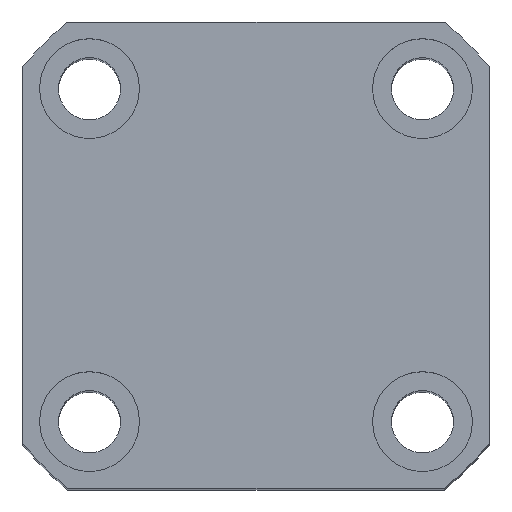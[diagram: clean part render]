
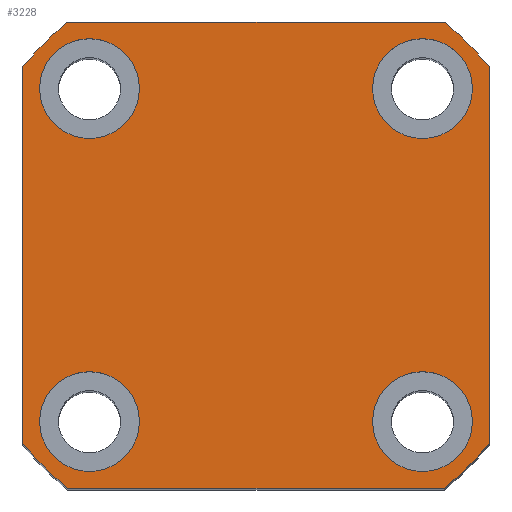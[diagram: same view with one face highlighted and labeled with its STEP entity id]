
A CAD part, top view. The second image highlights one B-rep face of the part: STEP entity #3228.
In plain terms, the highlighted planar face has unit normal (0, 0, 1).
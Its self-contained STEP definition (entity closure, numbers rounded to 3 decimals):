
#3228=ADVANCED_FACE('',(#3943,#3944,#3945,#3946,#3947),#3636,.T.);
#3636=PLANE('',#10395);
#3943=FACE_BOUND('',#4151,.T.);
#3944=FACE_BOUND('',#4152,.T.);
#3945=FACE_BOUND('',#4153,.T.);
#3946=FACE_BOUND('',#4154,.T.);
#3947=FACE_BOUND('',#4155,.T.);
#4151=EDGE_LOOP('',(#6303));
#4152=EDGE_LOOP('',(#6304));
#4153=EDGE_LOOP('',(#6305));
#4154=EDGE_LOOP('',(#6306));
#4155=EDGE_LOOP('',(#6307,#6308,#6309,#6310,#6311,#6312,#6313,#6314));
#4649=LINE('',#12433,#5376);
#4654=LINE('',#13075,#5381);
#4658=LINE('',#13084,#5385);
#4662=LINE('',#13093,#5389);
#5376=VECTOR('',#10760,1.);
#5381=VECTOR('',#10887,1.);
#5385=VECTOR('',#10893,1.);
#5389=VECTOR('',#10899,1.);
#6303=ORIENTED_EDGE('',*,*,#9172,.F.);
#6304=ORIENTED_EDGE('',*,*,#9174,.F.);
#6305=ORIENTED_EDGE('',*,*,#9176,.F.);
#6306=ORIENTED_EDGE('',*,*,#9178,.F.);
#6307=ORIENTED_EDGE('',*,*,#9146,.T.);
#6308=ORIENTED_EDGE('',*,*,#9242,.T.);
#6309=ORIENTED_EDGE('',*,*,#9231,.T.);
#6310=ORIENTED_EDGE('',*,*,#9243,.T.);
#6311=ORIENTED_EDGE('',*,*,#9235,.T.);
#6312=ORIENTED_EDGE('',*,*,#9244,.T.);
#6313=ORIENTED_EDGE('',*,*,#9239,.T.);
#6314=ORIENTED_EDGE('',*,*,#9245,.T.);
#8377=VERTEX_POINT('',#12431);
#8379=VERTEX_POINT('',#12434);
#8403=VERTEX_POINT('',#12617);
#8405=VERTEX_POINT('',#12622);
#8407=VERTEX_POINT('',#12627);
#8409=VERTEX_POINT('',#12632);
#8461=VERTEX_POINT('',#13073);
#8463=VERTEX_POINT('',#13076);
#8465=VERTEX_POINT('',#13082);
#8467=VERTEX_POINT('',#13085);
#8469=VERTEX_POINT('',#13091);
#8471=VERTEX_POINT('',#13094);
#9146=EDGE_CURVE('',#8379,#8377,#4649,.T.);
#9172=EDGE_CURVE('',#8403,#8403,#10250,.T.);
#9174=EDGE_CURVE('',#8405,#8405,#10252,.T.);
#9176=EDGE_CURVE('',#8407,#8407,#10254,.T.);
#9178=EDGE_CURVE('',#8409,#8409,#10256,.T.);
#9231=EDGE_CURVE('',#8463,#8461,#4654,.T.);
#9235=EDGE_CURVE('',#8467,#8465,#4658,.T.);
#9239=EDGE_CURVE('',#8471,#8469,#4662,.T.);
#9242=EDGE_CURVE('',#8377,#8463,#10268,.T.);
#9243=EDGE_CURVE('',#8461,#8467,#10269,.T.);
#9244=EDGE_CURVE('',#8465,#8471,#10270,.T.);
#9245=EDGE_CURVE('',#8469,#8379,#10271,.T.);
#10250=CIRCLE('',#10361,4.5);
#10252=CIRCLE('',#10364,4.5);
#10254=CIRCLE('',#10367,4.5);
#10256=CIRCLE('',#10370,4.5);
#10268=CIRCLE('',#10391,27.);
#10269=CIRCLE('',#10392,27.);
#10270=CIRCLE('',#10393,27.);
#10271=CIRCLE('',#10394,27.);
#10361=AXIS2_PLACEMENT_3D('',#12616,#10831,#10832);
#10364=AXIS2_PLACEMENT_3D('',#12621,#10837,#10838);
#10367=AXIS2_PLACEMENT_3D('',#12626,#10843,#10844);
#10370=AXIS2_PLACEMENT_3D('',#12631,#10849,#10850);
#10391=AXIS2_PLACEMENT_3D('',#13099,#10904,#10905);
#10392=AXIS2_PLACEMENT_3D('',#13100,#10906,#10907);
#10393=AXIS2_PLACEMENT_3D('',#13101,#10908,#10909);
#10394=AXIS2_PLACEMENT_3D('',#13102,#10910,#10911);
#10395=AXIS2_PLACEMENT_3D('',#13103,#10912,#10913);
#10760=DIRECTION('',(0.,1.,0.));
#10831=DIRECTION('',(0.,0.,1.));
#10832=DIRECTION('',(1.,0.,0.));
#10837=DIRECTION('',(0.,0.,1.));
#10838=DIRECTION('',(1.,0.,0.));
#10843=DIRECTION('',(0.,0.,1.));
#10844=DIRECTION('',(1.,0.,0.));
#10849=DIRECTION('',(0.,0.,1.));
#10850=DIRECTION('',(1.,0.,0.));
#10887=DIRECTION('',(-1.,0.,0.));
#10893=DIRECTION('',(0.,-1.,0.));
#10899=DIRECTION('',(1.,0.,0.));
#10904=DIRECTION('',(0.,0.,1.));
#10905=DIRECTION('',(1.,0.,0.));
#10906=DIRECTION('',(0.,0.,1.));
#10907=DIRECTION('',(1.,0.,0.));
#10908=DIRECTION('',(0.,0.,1.));
#10909=DIRECTION('',(1.,0.,0.));
#10910=DIRECTION('',(0.,0.,1.));
#10911=DIRECTION('',(1.,0.,0.));
#10912=DIRECTION('',(0.,0.,1.));
#10913=DIRECTION('',(-1.,0.,0.));
#12431=CARTESIAN_POINT('',(-79.982,27.344,93.012));
#12433=CARTESIAN_POINT('',(-79.982,31.373,93.012));
#12434=CARTESIAN_POINT('',(-79.982,-6.597,93.012));
#12616=CARTESIAN_POINT('',(-115.982,25.376,93.012));
#12617=CARTESIAN_POINT('',(-111.482,25.376,93.012));
#12621=CARTESIAN_POINT('',(-115.982,-4.624,93.012));
#12622=CARTESIAN_POINT('',(-111.482,-4.624,93.012));
#12626=CARTESIAN_POINT('',(-85.982,-4.624,93.012));
#12627=CARTESIAN_POINT('',(-81.482,-4.624,93.012));
#12631=CARTESIAN_POINT('',(-85.982,25.373,93.012));
#12632=CARTESIAN_POINT('',(-81.482,25.373,93.012));
#13073=CARTESIAN_POINT('',(-117.953,31.373,93.012));
#13075=CARTESIAN_POINT('',(-121.982,31.373,93.012));
#13076=CARTESIAN_POINT('',(-84.012,31.373,93.012));
#13082=CARTESIAN_POINT('',(-121.982,-6.597,93.012));
#13084=CARTESIAN_POINT('',(-121.982,31.373,93.012));
#13085=CARTESIAN_POINT('',(-121.982,27.344,93.012));
#13091=CARTESIAN_POINT('',(-84.012,-10.627,93.012));
#13093=CARTESIAN_POINT('',(-121.982,-10.627,93.012));
#13094=CARTESIAN_POINT('',(-117.953,-10.627,93.012));
#13099=CARTESIAN_POINT('',(-100.982,10.373,93.012));
#13100=CARTESIAN_POINT('',(-100.982,10.373,93.012));
#13101=CARTESIAN_POINT('',(-100.982,10.373,93.012));
#13102=CARTESIAN_POINT('',(-100.982,10.373,93.012));
#13103=CARTESIAN_POINT('',(-100.982,10.373,93.012));
